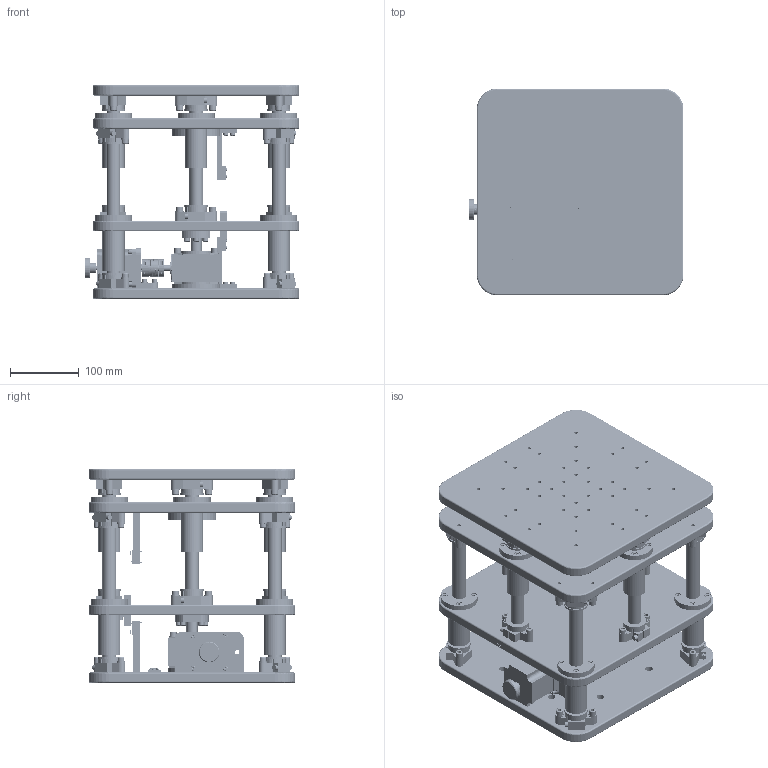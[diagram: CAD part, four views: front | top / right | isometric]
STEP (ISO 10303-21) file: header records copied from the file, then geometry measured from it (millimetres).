
FILE_DESCRIPTION (( 'STEP AP214' ), '1' );
FILE_NAME ('PT-GD850.STEP', '2024-10-13T01:05:33', ( '' ), ( '' ), 'SwSTEP 2.0', 'SolidWorks 2017', '' );
FILE_SCHEMA (( 'AUTOMOTIVE_DESIGN' ));
Length unit declared in the file: millimetre
Products named in the file (2): PT-GD850
Bounding box: 312 x 300 x 310 mm (x, y, z)
Volume: 7025188.6 mm3; surface area: 1426636.8 mm2
Topology: 251 solids, 251 shells, 5446 faces, 13218 edges, 8423 vertices
Faces by surface type: plane 2654, cylinder 2090, cone 410, bspline 292
Entity records: 169602 total; most frequent: CARTESIAN_POINT 37049, DIRECTION 28087, ORIENTED_EDGE 26028, EDGE_CURVE 13014, AXIS2_PLACEMENT_3D 10641, VERTEX_POINT 8423, VECTOR 6805, LINE 6805
